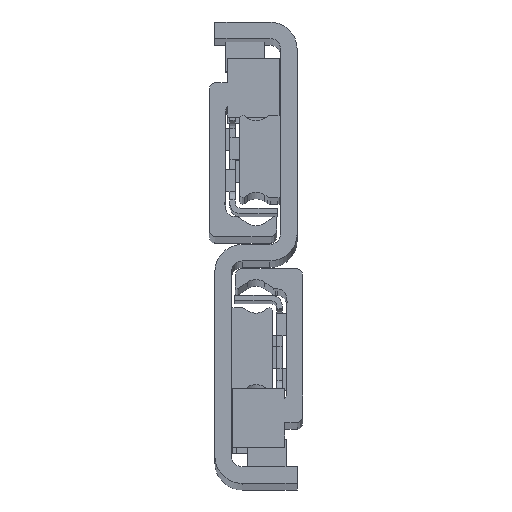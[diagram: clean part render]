
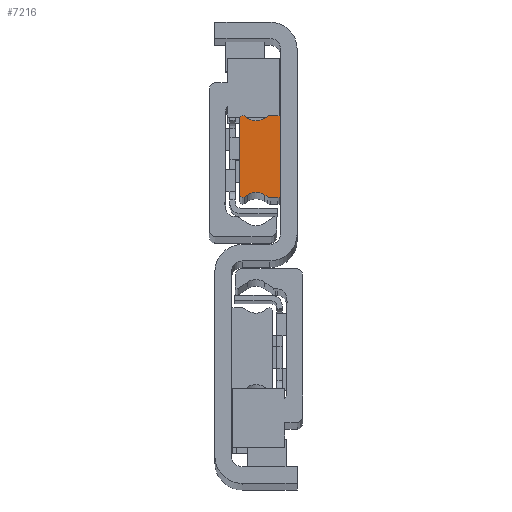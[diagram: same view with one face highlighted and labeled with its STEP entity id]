
A CAD part, top view. The second image highlights one B-rep face of the part: STEP entity #7216.
In plain terms, the highlighted planar face has unit normal (0, 0, 1) as drawn and (0, 0, -1) by its records, which use the part's own axes.
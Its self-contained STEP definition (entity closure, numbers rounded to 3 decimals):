
#1 = CARTESIAN_POINT ( 'NONE',  ( 2.446, -7.319, 0. ) ) ;
#48 = DIRECTION ( 'NONE',  ( 0., 0., -1. ) ) ;
#107 = VERTEX_POINT ( 'NONE', #5913 ) ;
#175 = ORIENTED_EDGE ( 'NONE', *, *, #7600, .F. ) ;
#328 = AXIS2_PLACEMENT_3D ( 'NONE', #11977, #3617, #7268 ) ;
#484 = CARTESIAN_POINT ( 'NONE',  ( 4.5, -9.272, 0. ) ) ;
#530 = CARTESIAN_POINT ( 'NONE',  ( 7.5, -6.977, 0. ) ) ;
#624 = VECTOR ( 'NONE', #4059, 1000. ) ;
#903 = VERTEX_POINT ( 'NONE', #9723 ) ;
#989 = VERTEX_POINT ( 'NONE', #10477 ) ;
#1125 = VECTOR ( 'NONE', #11806, 1000. ) ;
#1126 = CARTESIAN_POINT ( 'NONE',  ( 0.5, -7.5, 0. ) ) ;
#1165 = VECTOR ( 'NONE', #3321, 1000. ) ;
#1176 = DIRECTION ( 'NONE',  ( 0., -1., 0. ) ) ;
#1324 = CARTESIAN_POINT ( 'NONE',  ( 2.907, -6.997, 0. ) ) ;
#1398 = DIRECTION ( 'NONE',  ( 0., 0., -1. ) ) ;
#1419 = EDGE_LOOP ( 'NONE', ( #3437, #2321, #10309, #4898, #9872, #6337, #4808, #5361, #11719, #3315, #8128, #11321, #8902, #2331, #3739, #175 ) ) ;
#1467 = DIRECTION ( 'NONE',  ( -1., 0., 0. ) ) ;
#1761 = EDGE_CURVE ( 'NONE', #4282, #8899, #9692, .T. ) ;
#2004 = VERTEX_POINT ( 'NONE', #11529 ) ;
#2196 = LINE ( 'NONE', #7089, #5304 ) ;
#2321 = ORIENTED_EDGE ( 'NONE', *, *, #3285, .F. ) ;
#2331 = ORIENTED_EDGE ( 'NONE', *, *, #6576, .F. ) ;
#2408 = DIRECTION ( 'NONE',  ( 0., 0., 1. ) ) ;
#2724 = CIRCLE ( 'NONE', #9353, 0.523 ) ;
#2825 = VERTEX_POINT ( 'NONE', #4530 ) ;
#3007 = CARTESIAN_POINT ( 'NONE',  ( 0., -7., 0. ) ) ;
#3066 = AXIS2_PLACEMENT_3D ( 'NONE', #11767, #8971, #7047 ) ;
#3196 = EDGE_CURVE ( 'NONE', #7822, #7153, #4664, .T. ) ;
#3246 = EDGE_CURVE ( 'NONE', #989, #11223, #2724, .T. ) ;
#3260 = DIRECTION ( 'NONE',  ( -0.819, -0.574, 0. ) ) ;
#3285 = EDGE_CURVE ( 'NONE', #7682, #989, #8897, .T. ) ;
#3315 = ORIENTED_EDGE ( 'NONE', *, *, #5601, .F. ) ;
#3321 = DIRECTION ( 'NONE',  ( 0.819, 0.574, 0. ) ) ;
#3342 = VECTOR ( 'NONE', #6098, 1000. ) ;
#3437 = ORIENTED_EDGE ( 'NONE', *, *, #3246, .F. ) ;
#3465 = CARTESIAN_POINT ( 'NONE',  ( 6.093, 6.997, 0. ) ) ;
#3617 = DIRECTION ( 'NONE',  ( 0., 0., 1. ) ) ;
#3622 = DIRECTION ( 'NONE',  ( -1., 0., 0. ) ) ;
#3678 = EDGE_CURVE ( 'NONE', #7153, #2004, #6841, .T. ) ;
#3739 = ORIENTED_EDGE ( 'NONE', *, *, #5839, .F. ) ;
#3872 = VERTEX_POINT ( 'NONE', #3465 ) ;
#3888 = DIRECTION ( 'NONE',  ( 0., 0., 1. ) ) ;
#3911 = PLANE ( 'NONE',  #8624 ) ;
#3920 = CIRCLE ( 'NONE', #7112, 1. ) ;
#4014 = VECTOR ( 'NONE', #1176, 1000. ) ;
#4059 = DIRECTION ( 'NONE',  ( -1., 0., 0. ) ) ;
#4193 = VERTEX_POINT ( 'NONE', #1 ) ;
#4244 = CARTESIAN_POINT ( 'NONE',  ( 2.907, -6.997, 0. ) ) ;
#4246 = LINE ( 'NONE', #4244, #1165 ) ;
#4282 = VERTEX_POINT ( 'NONE', #8585 ) ;
#4529 = CARTESIAN_POINT ( 'NONE',  ( 4.5, 9.272, 0. ) ) ;
#4530 = CARTESIAN_POINT ( 'NONE',  ( 1.873, 7.5, 0. ) ) ;
#4664 = CIRCLE ( 'NONE', #3066, 0.5 ) ;
#4716 = DIRECTION ( 'NONE',  ( -1., 0., 0. ) ) ;
#4808 = ORIENTED_EDGE ( 'NONE', *, *, #7994, .F. ) ;
#4898 = ORIENTED_EDGE ( 'NONE', *, *, #10276, .F. ) ;
#5067 = CARTESIAN_POINT ( 'NONE',  ( 2.907, 6.997, 0. ) ) ;
#5080 = VERTEX_POINT ( 'NONE', #10751 ) ;
#5228 = CARTESIAN_POINT ( 'NONE',  ( 6.977, 6.977, 0. ) ) ;
#5304 = VECTOR ( 'NONE', #3260, 1000. ) ;
#5361 = ORIENTED_EDGE ( 'NONE', *, *, #3678, .F. ) ;
#5601 = EDGE_CURVE ( 'NONE', #8899, #7822, #11326, .T. ) ;
#5702 = CARTESIAN_POINT ( 'NONE',  ( 6.977, 6.977, 0. ) ) ;
#5718 = CARTESIAN_POINT ( 'NONE',  ( 1.873, -6.5, 0. ) ) ;
#5839 = EDGE_CURVE ( 'NONE', #3872, #10725, #7533, .T. ) ;
#5913 = CARTESIAN_POINT ( 'NONE',  ( 6.677, -7.405, 0. ) ) ;
#5918 = CARTESIAN_POINT ( 'NONE',  ( 0.5, 7.5, 0. ) ) ;
#6055 = VECTOR ( 'NONE', #7495, 1000. ) ;
#6070 = EDGE_CURVE ( 'NONE', #2825, #4282, #6789, .T. ) ;
#6098 = DIRECTION ( 'NONE',  ( 0.819, -0.574, 0. ) ) ;
#6337 = ORIENTED_EDGE ( 'NONE', *, *, #10259, .F. ) ;
#6576 = EDGE_CURVE ( 'NONE', #10725, #5080, #6782, .T. ) ;
#6621 = DIRECTION ( 'NONE',  ( -1., 0., 0. ) ) ;
#6772 = CARTESIAN_POINT ( 'NONE',  ( 6.677, 7.405, 0. ) ) ;
#6782 = LINE ( 'NONE', #7377, #6055 ) ;
#6789 = LINE ( 'NONE', #5918, #624 ) ;
#6841 = LINE ( 'NONE', #9620, #6979 ) ;
#6979 = VECTOR ( 'NONE', #10547, 1000. ) ;
#7047 = DIRECTION ( 'NONE',  ( -1., 0., 0. ) ) ;
#7088 = CARTESIAN_POINT ( 'NONE',  ( 7.5, 6.977, 0. ) ) ;
#7089 = CARTESIAN_POINT ( 'NONE',  ( 6.093, 6.997, 0. ) ) ;
#7112 = AXIS2_PLACEMENT_3D ( 'NONE', #11798, #10752, #1467 ) ;
#7153 = VERTEX_POINT ( 'NONE', #1126 ) ;
#7216 = ADVANCED_FACE ( 'NONE', ( #9101 ), #3911, .T. ) ;
#7268 = DIRECTION ( 'NONE',  ( -1., 0., 0. ) ) ;
#7377 = CARTESIAN_POINT ( 'NONE',  ( 2.446, 7.319, 0. ) ) ;
#7483 = CIRCLE ( 'NONE', #11127, 1. ) ;
#7495 = DIRECTION ( 'NONE',  ( -0.819, 0.574, 0. ) ) ;
#7533 = CIRCLE ( 'NONE', #8522, 2.778 ) ;
#7600 = EDGE_CURVE ( 'NONE', #11223, #3872, #2196, .T. ) ;
#7620 = EDGE_CURVE ( 'NONE', #8856, #903, #11701, .T. ) ;
#7682 = VERTEX_POINT ( 'NONE', #530 ) ;
#7822 = VERTEX_POINT ( 'NONE', #9135 ) ;
#7994 = EDGE_CURVE ( 'NONE', #2004, #4193, #7483, .T. ) ;
#8128 = ORIENTED_EDGE ( 'NONE', *, *, #1761, .F. ) ;
#8361 = DIRECTION ( 'NONE',  ( 1., 0., 0. ) ) ;
#8522 = AXIS2_PLACEMENT_3D ( 'NONE', #4529, #11015, #8361 ) ;
#8585 = CARTESIAN_POINT ( 'NONE',  ( 0.5, 7.5, 0. ) ) ;
#8624 = AXIS2_PLACEMENT_3D ( 'NONE', #5702, #48, #6621 ) ;
#8853 = AXIS2_PLACEMENT_3D ( 'NONE', #484, #1398, #9828 ) ;
#8856 = VERTEX_POINT ( 'NONE', #1324 ) ;
#8897 = LINE ( 'NONE', #7088, #1125 ) ;
#8899 = VERTEX_POINT ( 'NONE', #9800 ) ;
#8902 = ORIENTED_EDGE ( 'NONE', *, *, #11356, .F. ) ;
#8971 = DIRECTION ( 'NONE',  ( 0., 0., 1. ) ) ;
#9101 = FACE_OUTER_BOUND ( 'NONE', #1419, .T. ) ;
#9135 = CARTESIAN_POINT ( 'NONE',  ( 0., -7., 0. ) ) ;
#9263 = AXIS2_PLACEMENT_3D ( 'NONE', #10117, #10231, #3622 ) ;
#9353 = AXIS2_PLACEMENT_3D ( 'NONE', #5228, #2408, #11720 ) ;
#9620 = CARTESIAN_POINT ( 'NONE',  ( 1.873, -7.5, 0. ) ) ;
#9692 = CIRCLE ( 'NONE', #9263, 0.5 ) ;
#9723 = CARTESIAN_POINT ( 'NONE',  ( 6.093, -6.997, 0. ) ) ;
#9800 = CARTESIAN_POINT ( 'NONE',  ( 0., 7., 0. ) ) ;
#9828 = DIRECTION ( 'NONE',  ( 1., 0., 0. ) ) ;
#9872 = ORIENTED_EDGE ( 'NONE', *, *, #7620, .F. ) ;
#10117 = CARTESIAN_POINT ( 'NONE',  ( 0.5, 7., 0. ) ) ;
#10231 = DIRECTION ( 'NONE',  ( 0., 0., 1. ) ) ;
#10259 = EDGE_CURVE ( 'NONE', #4193, #8856, #4246, .T. ) ;
#10276 = EDGE_CURVE ( 'NONE', #903, #107, #11408, .T. ) ;
#10309 = ORIENTED_EDGE ( 'NONE', *, *, #10982, .F. ) ;
#10477 = CARTESIAN_POINT ( 'NONE',  ( 7.5, 6.977, 0. ) ) ;
#10547 = DIRECTION ( 'NONE',  ( 1., 0., 0. ) ) ;
#10725 = VERTEX_POINT ( 'NONE', #5067 ) ;
#10751 = CARTESIAN_POINT ( 'NONE',  ( 2.446, 7.319, 0. ) ) ;
#10752 = DIRECTION ( 'NONE',  ( 0., 0., 1. ) ) ;
#10982 = EDGE_CURVE ( 'NONE', #107, #7682, #11521, .T. ) ;
#11015 = DIRECTION ( 'NONE',  ( 0., 0., -1. ) ) ;
#11127 = AXIS2_PLACEMENT_3D ( 'NONE', #5718, #3888, #4716 ) ;
#11223 = VERTEX_POINT ( 'NONE', #6772 ) ;
#11321 = ORIENTED_EDGE ( 'NONE', *, *, #6070, .F. ) ;
#11326 = LINE ( 'NONE', #3007, #4014 ) ;
#11356 = EDGE_CURVE ( 'NONE', #5080, #2825, #3920, .T. ) ;
#11408 = LINE ( 'NONE', #11669, #3342 ) ;
#11521 = CIRCLE ( 'NONE', #328, 0.523 ) ;
#11529 = CARTESIAN_POINT ( 'NONE',  ( 1.873, -7.5, 0. ) ) ;
#11669 = CARTESIAN_POINT ( 'NONE',  ( 6.677, -7.405, 0. ) ) ;
#11701 = CIRCLE ( 'NONE', #8853, 2.778 ) ;
#11719 = ORIENTED_EDGE ( 'NONE', *, *, #3196, .F. ) ;
#11720 = DIRECTION ( 'NONE',  ( -1., 0., 0. ) ) ;
#11767 = CARTESIAN_POINT ( 'NONE',  ( 0.5, -7., 0. ) ) ;
#11798 = CARTESIAN_POINT ( 'NONE',  ( 1.873, 6.5, 0. ) ) ;
#11806 = DIRECTION ( 'NONE',  ( 0., 1., 0. ) ) ;
#11977 = CARTESIAN_POINT ( 'NONE',  ( 6.977, -6.977, 0. ) ) ;
